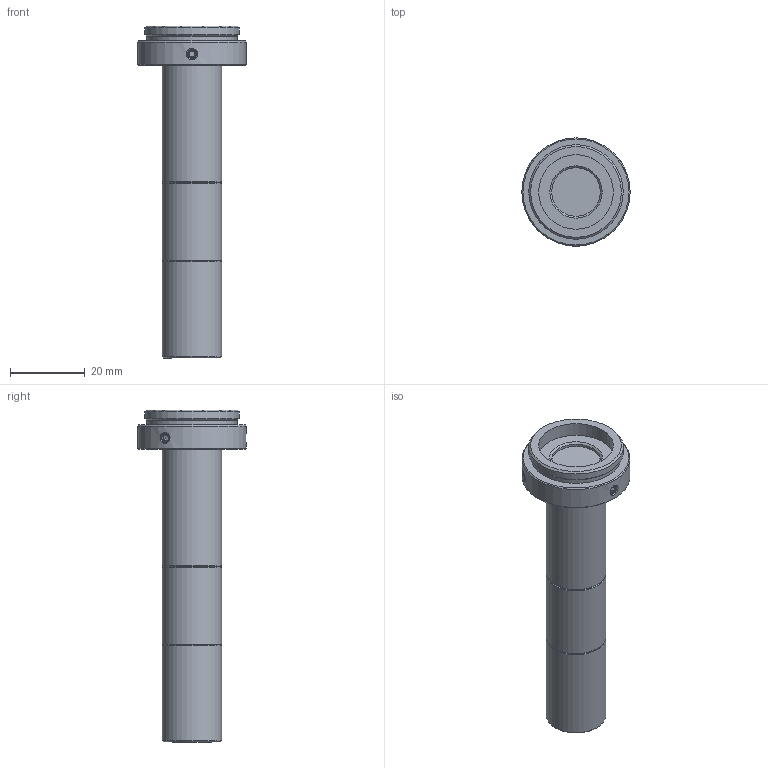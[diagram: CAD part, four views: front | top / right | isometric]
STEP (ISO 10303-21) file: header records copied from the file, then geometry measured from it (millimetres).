
FILE_DESCRIPTION(('STEP AP214'),'1');
FILE_NAME('RTK-4-110.stp','2026-03-17T06:07:01',(' '),(' '),'Spatial InterOp 3D',' ',' ');
FILE_SCHEMA(('AUTOMOTIVE_DESIGN { 1 0 10303 214 1 1 1 1 }'));
Length unit declared in the file: metre
Products named in the file (2): RTK-4-110; Component1
Assembly tree (1 placements, depth 2):
  RTK-4-110
    Component1
Bounding box: 29 x 29 x 88.95 mm (x, y, z)
Volume: 20366.3 mm3; surface area: 6608.2 mm2
Topology: 1 solids, 1 shells, 94 faces, 232 edges, 153 vertices
Faces by surface type: plane 40, cone 36, cylinder 14, bspline 3, sphere 1
Full cylindrical faces by diameter (mm): 2.5 x3, 12 x1, 13 x1, 16 x3, 20 x1, 24.12 x1, 25.32 x1, 29 x1
Entity records: 3660 total; most frequent: CARTESIAN_POINT 861, DIRECTION 400, ORIENTED_EDGE 380, EDGE_CURVE 190, AXIS2_PLACEMENT_3D 156, VERTEX_POINT 142, EDGE_LOOP 136, FACE_OUTER_BOUND 108
